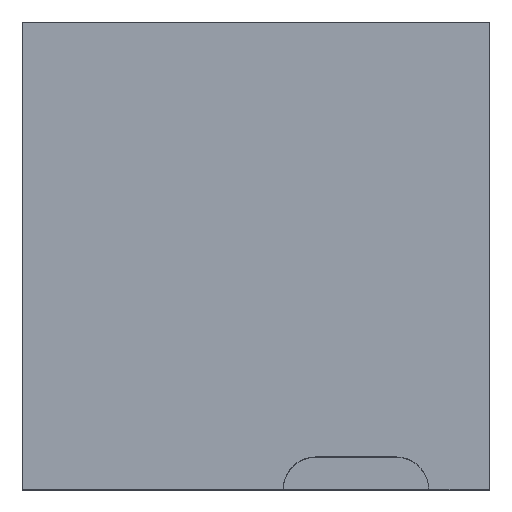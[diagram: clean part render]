
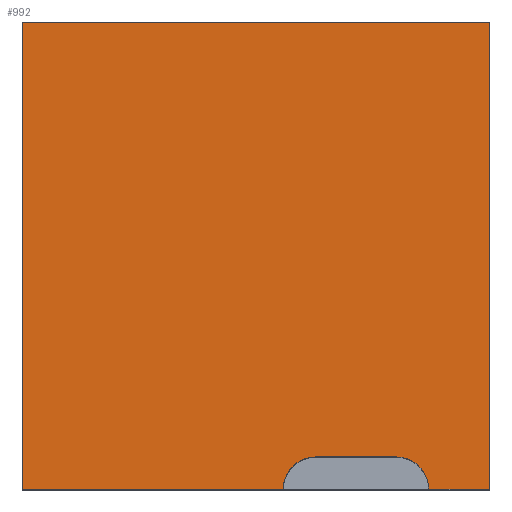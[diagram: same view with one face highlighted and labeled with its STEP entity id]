
A CAD part, top view. The second image highlights one B-rep face of the part: STEP entity #992.
In plain terms, the highlighted planar face has unit normal (0, 0, 1).
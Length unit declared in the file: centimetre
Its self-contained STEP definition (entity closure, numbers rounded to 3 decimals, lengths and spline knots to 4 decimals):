
#11 = VERTEX_POINT ( 'NONE', #772 ) ;
#50 = LINE ( 'NONE', #276, #127 ) ;
#105 = VECTOR ( 'NONE', #1401, 100. ) ;
#116 = ORIENTED_EDGE ( 'NONE', *, *, #383, .F. ) ;
#122 = DIRECTION ( 'NONE',  ( 1., 0., 0. ) ) ;
#127 = VECTOR ( 'NONE', #156, 100. ) ;
#146 = ORIENTED_EDGE ( 'NONE', *, *, #1365, .T. ) ;
#156 = DIRECTION ( 'NONE',  ( -1., 0., 0. ) ) ;
#204 = CARTESIAN_POINT ( 'NONE',  ( 0., 0., 1000. ) ) ;
#218 = ORIENTED_EDGE ( 'NONE', *, *, #730, .T. ) ;
#223 = ORIENTED_EDGE ( 'NONE', *, *, #454, .F. ) ;
#243 = AXIS2_PLACEMENT_3D ( 'NONE', #1312, #398, #764 ) ;
#246 = VERTEX_POINT ( 'NONE', #1171 ) ;
#276 = CARTESIAN_POINT ( 'NONE',  ( 800.7337, 68.8936, 1000. ) ) ;
#281 = DIRECTION ( 'NONE',  ( 1., 0., 0. ) ) ;
#283 = CARTESIAN_POINT ( 'NONE',  ( 0., 1000., 1000. ) ) ;
#325 = CARTESIAN_POINT ( 'NONE',  ( 0., 1000., 1000. ) ) ;
#327 = EDGE_CURVE ( 'NONE', #643, #888, #576, .T. ) ;
#377 = CARTESIAN_POINT ( 'NONE',  ( 1000., 1000., 1000. ) ) ;
#383 = EDGE_CURVE ( 'NONE', #643, #780, #1144, .T. ) ;
#386 = EDGE_CURVE ( 'NONE', #922, #1090, #900, .T. ) ;
#398 = DIRECTION ( 'NONE',  ( 0., 0., 1. ) ) ;
#405 = LINE ( 'NONE', #847, #1355 ) ;
#412 = DIRECTION ( 'NONE',  ( -1., 0., 0. ) ) ;
#427 = AXIS2_PLACEMENT_3D ( 'NONE', #783, #1125, #122 ) ;
#454 = EDGE_CURVE ( 'NONE', #11, #246, #820, .T. ) ;
#517 = AXIS2_PLACEMENT_3D ( 'NONE', #927, #710, #281 ) ;
#545 = CARTESIAN_POINT ( 'NONE',  ( 0., 0., 1000. ) ) ;
#552 = VERTEX_POINT ( 'NONE', #1259 ) ;
#564 = DIRECTION ( 'NONE',  ( 1., 0., 0. ) ) ;
#568 = DIRECTION ( 'NONE',  ( 0., -1., 0. ) ) ;
#576 = LINE ( 'NONE', #545, #1101 ) ;
#590 = ORIENTED_EDGE ( 'NONE', *, *, #1007, .T. ) ;
#603 = EDGE_LOOP ( 'NONE', ( #223, #1406, #116, #1367, #218, #146, #812, #590 ) ) ;
#643 = VERTEX_POINT ( 'NONE', #1186 ) ;
#710 = DIRECTION ( 'NONE',  ( 0., 0., 1. ) ) ;
#730 = EDGE_CURVE ( 'NONE', #888, #552, #806, .T. ) ;
#764 = DIRECTION ( 'NONE',  ( 1., 0., 0. ) ) ;
#772 = CARTESIAN_POINT ( 'NONE',  ( 626.9687, 68.8936, 1000. ) ) ;
#780 = VERTEX_POINT ( 'NONE', #1025 ) ;
#783 = CARTESIAN_POINT ( 'NONE',  ( 800.7337, 0., 1000. ) ) ;
#806 = LINE ( 'NONE', #377, #1257 ) ;
#812 = ORIENTED_EDGE ( 'NONE', *, *, #386, .T. ) ;
#820 = CIRCLE ( 'NONE', #517, 68.8936 ) ;
#838 = EDGE_CURVE ( 'NONE', #780, #11, #50, .T. ) ;
#842 = LINE ( 'NONE', #204, #105 ) ;
#847 = CARTESIAN_POINT ( 'NONE',  ( 0., 1000., 1000. ) ) ;
#858 = CARTESIAN_POINT ( 'NONE',  ( 0., 0., 1000. ) ) ;
#873 = PLANE ( 'NONE',  #243 ) ;
#888 = VERTEX_POINT ( 'NONE', #1087 ) ;
#900 = LINE ( 'NONE', #325, #1241 ) ;
#922 = VERTEX_POINT ( 'NONE', #283 ) ;
#927 = CARTESIAN_POINT ( 'NONE',  ( 626.9687, 0., 1000. ) ) ;
#992 = ADVANCED_FACE ( 'NONE', ( #1169 ), #873, .T. ) ;
#1007 = EDGE_CURVE ( 'NONE', #1090, #246, #842, .T. ) ;
#1025 = CARTESIAN_POINT ( 'NONE',  ( 800.7337, 68.8936, 1000. ) ) ;
#1087 = CARTESIAN_POINT ( 'NONE',  ( 1000., 0., 1000. ) ) ;
#1090 = VERTEX_POINT ( 'NONE', #858 ) ;
#1101 = VECTOR ( 'NONE', #564, 100. ) ;
#1125 = DIRECTION ( 'NONE',  ( 0., 0., 1. ) ) ;
#1144 = CIRCLE ( 'NONE', #427, 68.8936 ) ;
#1169 = FACE_OUTER_BOUND ( 'NONE', #603, .T. ) ;
#1171 = CARTESIAN_POINT ( 'NONE',  ( 558.0751, 0., 1000. ) ) ;
#1186 = CARTESIAN_POINT ( 'NONE',  ( 869.6273, 0., 1000. ) ) ;
#1241 = VECTOR ( 'NONE', #568, 100. ) ;
#1247 = DIRECTION ( 'NONE',  ( 0., 1., 0. ) ) ;
#1257 = VECTOR ( 'NONE', #1247, 100. ) ;
#1259 = CARTESIAN_POINT ( 'NONE',  ( 1000., 1000., 1000. ) ) ;
#1312 = CARTESIAN_POINT ( 'NONE',  ( 0., 0., 1000. ) ) ;
#1355 = VECTOR ( 'NONE', #412, 100. ) ;
#1365 = EDGE_CURVE ( 'NONE', #552, #922, #405, .T. ) ;
#1367 = ORIENTED_EDGE ( 'NONE', *, *, #327, .T. ) ;
#1401 = DIRECTION ( 'NONE',  ( 1., 0., 0. ) ) ;
#1406 = ORIENTED_EDGE ( 'NONE', *, *, #838, .F. ) ;
